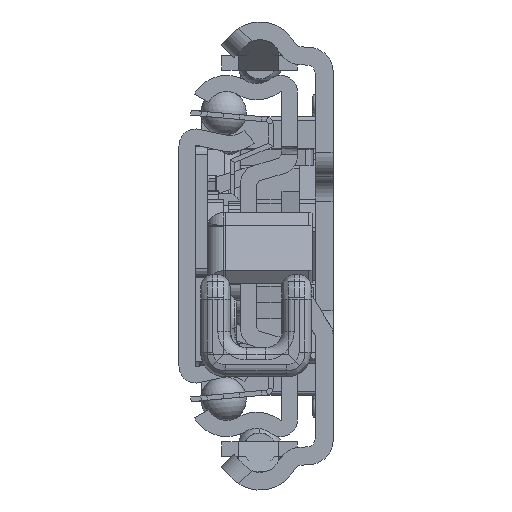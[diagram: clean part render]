
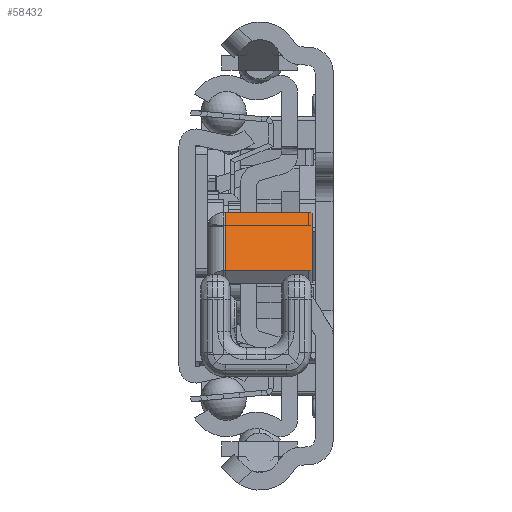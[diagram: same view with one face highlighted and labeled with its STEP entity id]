
A CAD part, left-side view. The second image highlights one B-rep face of the part: STEP entity #58432.
In plain terms, the highlighted planar face has unit normal (-0.597, 0, 0.802) as drawn and (-0.597, -0.802, 0) by its records, which use the part's own axes.
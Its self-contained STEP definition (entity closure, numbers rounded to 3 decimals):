
#57820=DIRECTION('',(0.802,-0.597,0.));
#57821=VECTOR('',#57820,12.);
#57822=CARTESIAN_POINT('',(31.957,-10.314,-0.2));
#57823=LINE('',#57822,#57821);
#57848=DIRECTION('',(0.,0.,1.));
#57849=VECTOR('',#57848,10.3);
#57850=CARTESIAN_POINT('',(41.586,-17.476,-10.5));
#57851=LINE('',#57850,#57849);
#57852=CARTESIAN_POINT('',(41.184,-17.178,-10.5));
#57853=DIRECTION('',(-0.597,-0.802,0.));
#57854=DIRECTION('',(0.,0.,-1.));
#57855=AXIS2_PLACEMENT_3D('',#57852,#57853,#57854);
#57857=DIRECTION('',(0.802,-0.597,0.));
#57858=VECTOR('',#57857,11.);
#57859=CARTESIAN_POINT('',(32.358,-10.613,-11.));
#57860=LINE('',#57859,#57858);
#57861=CARTESIAN_POINT('',(32.358,-10.613,-10.5));
#57862=DIRECTION('',(-0.597,-0.802,0.));
#57863=DIRECTION('',(-0.802,0.597,0.));
#57864=AXIS2_PLACEMENT_3D('',#57861,#57862,#57863);
#57866=DIRECTION('',(0.,0.,-1.));
#57867=VECTOR('',#57866,10.3);
#57868=CARTESIAN_POINT('',(31.957,-10.314,-0.2));
#57869=LINE('',#57868,#57867);
#58086=CARTESIAN_POINT('',(31.957,-10.314,-0.2));
#58087=CARTESIAN_POINT('',(41.586,-17.476,-0.2));
#58088=VERTEX_POINT('',#58086);
#58089=VERTEX_POINT('',#58087);
#58118=CARTESIAN_POINT('',(41.586,-17.476,-10.5));
#58119=VERTEX_POINT('',#58118);
#58120=CARTESIAN_POINT('',(32.358,-10.613,-11.));
#58121=CARTESIAN_POINT('',(41.184,-17.178,-11.));
#58122=VERTEX_POINT('',#58120);
#58123=VERTEX_POINT('',#58121);
#58124=CARTESIAN_POINT('',(31.957,-10.314,-10.5));
#58125=VERTEX_POINT('',#58124);
#58414=CARTESIAN_POINT('',(34.726,-12.374,2.));
#58415=DIRECTION('',(0.597,0.802,0.));
#58416=DIRECTION('',(0.802,-0.597,0.));
#58417=AXIS2_PLACEMENT_3D('',#58414,#58415,#58416);
#58418=PLANE('',#58417);
#58420=ORIENTED_EDGE('',*,*,#58419,.F.);
#58422=ORIENTED_EDGE('',*,*,#58421,.F.);
#58424=ORIENTED_EDGE('',*,*,#58423,.F.);
#58426=ORIENTED_EDGE('',*,*,#58425,.F.);
#58428=ORIENTED_EDGE('',*,*,#58427,.F.);
#58429=ORIENTED_EDGE('',*,*,#58401,.T.);
#58430=EDGE_LOOP('',(#58420,#58422,#58424,#58426,#58428,#58429));
#58431=FACE_OUTER_BOUND('',#58430,.F.);
#57856=CIRCLE('',#57855,0.5);
#57865=CIRCLE('',#57864,0.5);
#58401=EDGE_CURVE('',#58088,#58089,#57823,.T.);
#58419=EDGE_CURVE('',#58119,#58089,#57851,.T.);
#58421=EDGE_CURVE('',#58123,#58119,#57856,.T.);
#58423=EDGE_CURVE('',#58122,#58123,#57860,.T.);
#58425=EDGE_CURVE('',#58125,#58122,#57865,.T.);
#58427=EDGE_CURVE('',#58088,#58125,#57869,.T.);
#58432=ADVANCED_FACE('',(#58431),#58418,.F.);
